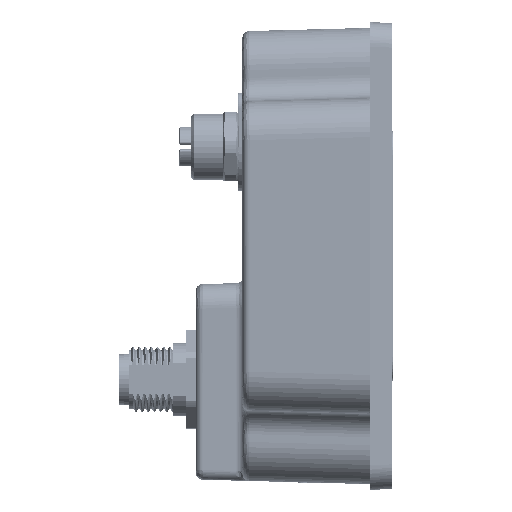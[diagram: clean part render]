
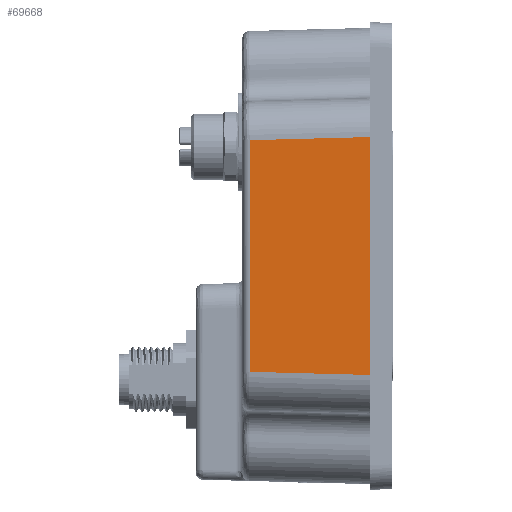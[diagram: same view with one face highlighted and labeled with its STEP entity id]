
A CAD part, left-side view. The second image highlights one B-rep face of the part: STEP entity #69668.
In plain terms, the highlighted planar face has unit normal (-1, 0.026, 0).
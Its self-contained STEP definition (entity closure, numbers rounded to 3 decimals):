
#275 = CARTESIAN_POINT ( 'NONE',  ( -90.884, 0., 24.212 ) ) ;
#5218 = CARTESIAN_POINT ( 'NONE',  ( -90.868, 0.633, -24.196 ) ) ;
#12836 = EDGE_CURVE ( 'NONE', #277066, #250201, #50034, .T. ) ;
#13321 = VECTOR ( 'NONE', #30013, 1000. ) ;
#13350 = VERTEX_POINT ( 'NONE', #41055 ) ;
#13382 = LINE ( 'NONE', #260469, #157071 ) ;
#19578 = EDGE_CURVE ( 'NONE', #277066, #40262, #13382, .T. ) ;
#26290 = ORIENTED_EDGE ( 'NONE', *, *, #12836, .F. ) ;
#30013 = DIRECTION ( 'NONE',  ( 0., 0., -1. ) ) ;
#40262 = VERTEX_POINT ( 'NONE', #275 ) ;
#41055 = CARTESIAN_POINT ( 'NONE',  ( -90.241, 24.573, 23.569 ) ) ;
#46596 = ORIENTED_EDGE ( 'NONE', *, *, #19578, .T. ) ;
#50034 = LINE ( 'NONE', #5218, #185455 ) ;
#55104 = DIRECTION ( 'NONE',  ( -0.026, -0.999, 0.026 ) ) ;
#69668 = ADVANCED_FACE ( 'NONE', ( #116691 ), #119529, .T. ) ;
#100662 = DIRECTION ( 'NONE',  ( -0.026, -1., 0. ) ) ;
#116691 = FACE_OUTER_BOUND ( 'NONE', #177567, .T. ) ;
#119529 = PLANE ( 'NONE',  #282178 ) ;
#141837 = CARTESIAN_POINT ( 'NONE',  ( -90.885, -0.005, 24.212 ) ) ;
#152404 = ORIENTED_EDGE ( 'NONE', *, *, #199296, .F. ) ;
#157071 = VECTOR ( 'NONE', #279277, 1000. ) ;
#177567 = EDGE_LOOP ( 'NONE', ( #46596, #152404, #208248, #26290 ) ) ;
#181810 = LINE ( 'NONE', #183214, #13321 ) ;
#183214 = CARTESIAN_POINT ( 'NONE',  ( -90.241, 24.573, 32.147 ) ) ;
#185455 = VECTOR ( 'NONE', #203245, 1000. ) ;
#195242 = CARTESIAN_POINT ( 'NONE',  ( -90.241, 24.573, -23.569 ) ) ;
#199296 = EDGE_CURVE ( 'NONE', #13350, #40262, #253099, .T. ) ;
#203245 = DIRECTION ( 'NONE',  ( 0.026, 0.999, 0.026 ) ) ;
#207667 = CARTESIAN_POINT ( 'NONE',  ( -90.884, 0., 32.147 ) ) ;
#208248 = ORIENTED_EDGE ( 'NONE', *, *, #248419, .T. ) ;
#229335 = CARTESIAN_POINT ( 'NONE',  ( -90.884, 0., -24.212 ) ) ;
#248419 = EDGE_CURVE ( 'NONE', #13350, #250201, #181810, .T. ) ;
#250201 = VERTEX_POINT ( 'NONE', #195242 ) ;
#253099 = LINE ( 'NONE', #141837, #285604 ) ;
#260469 = CARTESIAN_POINT ( 'NONE',  ( -90.884, 0., 0. ) ) ;
#272709 = DIRECTION ( 'NONE',  ( -1., 0.026, 0. ) ) ;
#277066 = VERTEX_POINT ( 'NONE', #229335 ) ;
#279277 = DIRECTION ( 'NONE',  ( 0., 0., 1. ) ) ;
#282178 = AXIS2_PLACEMENT_3D ( 'NONE', #207667, #272709, #100662 ) ;
#285604 = VECTOR ( 'NONE', #55104, 1000. ) ;
